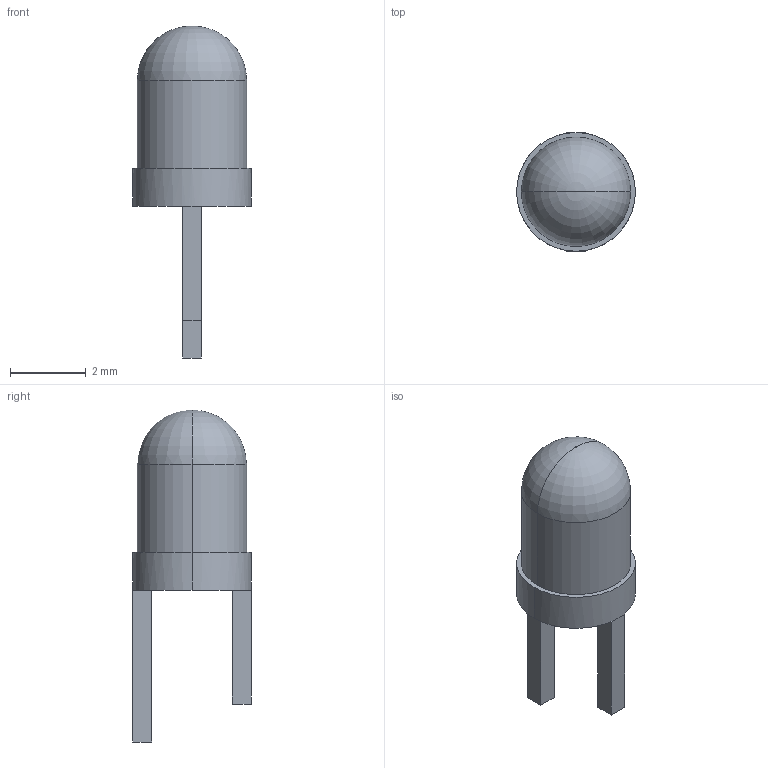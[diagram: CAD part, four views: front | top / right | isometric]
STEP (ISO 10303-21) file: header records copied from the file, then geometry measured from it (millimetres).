
FILE_DESCRIPTION (( 'STEP AP214' ), '1' );
FILE_NAME ('LED-3mm-Red.STEP', '2015-02-27T01:44:14', ( '' ), ( '' ), '', '', '' );
FILE_SCHEMA (( '' ));
Length unit declared in the file: millimetre
Products named in the file (1): LED-3mm-Red
Bounding box: 3.13 x 3.13 x 8.75 mm (x, y, z)
Volume: 30.8 mm3; surface area: 66.7 mm2
Topology: 1 solids, 1 shells, 23 faces, 52 edges, 32 vertices
Faces by surface type: plane 17, cylinder 4, torus 2
Entity records: 751 total; most frequent: DIRECTION 118, CARTESIAN_POINT 108, ORIENTED_EDGE 104, EDGE_CURVE 52, AXIS2_PLACEMENT_3D 42, VECTOR 34, LINE 34, VERTEX_POINT 32
